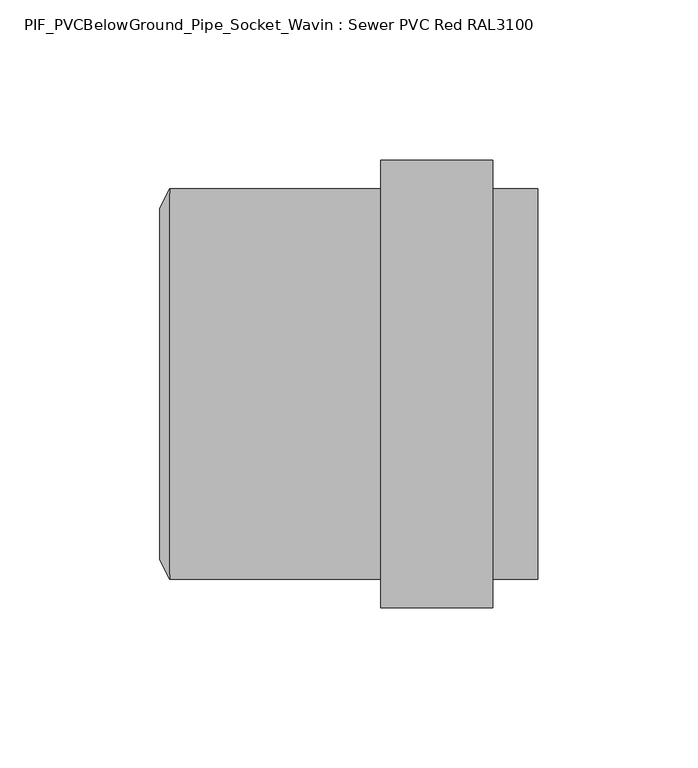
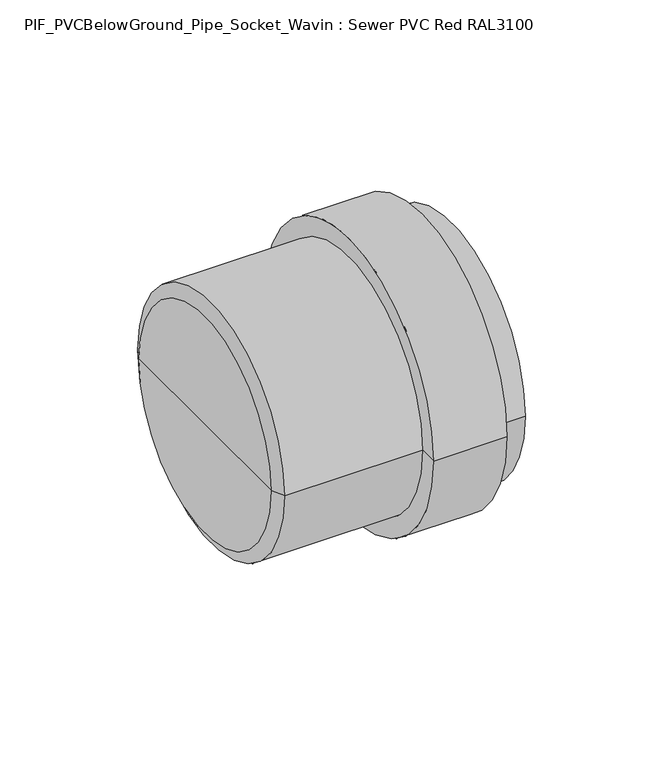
"""IFC4 building model written with IfcOpenShell, lengths in millimetres: pipe fitting geometry, PIF_PVCBelowGround_Pipe_Socket_Wavin : Sewer PVC Red RAL3100."""

from ifc_helpers import new_model, si_unit, frame, origin, place, context, project, spatial, polyline, circle_curve, source, transform, mapped, element, save
from ifc_brep_helpers import plane_surface, cylinder_surface, revolved_surface, advanced_brep


def pif_pvcbelowground_pipe_socket_wavin_sewer_pvc_red_ral3100_c325b6d2(model_context):
    return source(origin(), model_context, "Body", "AdvancedBrep", [
        advanced_brep(
        [(66.0, -70.0, 0.0), (66.0, 70.0, 0.0), (101.0, 70.0, 0.0), (101.0, -70.0, 0.0), (66.0, -60.95, 0.0), (66.0, 60.95, 0.0), (101.0, -60.95, 0.0), (101.0, 60.95, 0.0)],
        [
            (0, 1, circle_curve(frame((66.0, 0.0, 0.0), z_axis=(1.0, 0.0, 0.0), x_axis=(0.0, 1.0, 0.0)), 70.0)),
            (1, 2),
            (2, 3, circle_curve(frame((101.0, 0.0, 0.0), z_axis=(-1.0, 0.0, 0.0), x_axis=(0.0, 1.0, 0.0)), 70.0)),
            (3, 0),
            (1, 0, circle_curve(frame((66.0, 0.0, 0.0), z_axis=(1.0, 0.0, 0.0), x_axis=(0.0, 1.0, 0.0)), 70.0)),
            (3, 2, circle_curve(frame((101.0, 0.0, 0.0), z_axis=(-1.0, 0.0, 0.0), x_axis=(0.0, 1.0, 0.0)), 70.0)),
            (4, 5, circle_curve(frame((66.0, 0.0, 0.0), z_axis=(1.0, 0.0, 0.0), x_axis=(0.0, 1.0, 0.0)), 60.95)),
            (5, 1),
            (0, 4),
            (5, 4, circle_curve(frame((66.0, 0.0, 0.0), z_axis=(1.0, 0.0, 0.0), x_axis=(0.0, 1.0, 0.0)), 60.95)),
            (6, 7, circle_curve(frame((101.0, 0.0, 0.0), z_axis=(1.0, 0.0, 0.0), x_axis=(0.0, 1.0, 0.0)), 60.95)),
            (7, 5),
            (4, 6),
            (7, 6, circle_curve(frame((101.0, 0.0, 0.0), z_axis=(1.0, 0.0, 0.0), x_axis=(0.0, 1.0, 0.0)), 60.95)),
            (2, 7),
            (6, 3),
        ],
        [
            cylinder_surface(frame((2025.3, 0.0, 0.0), z_axis=(-1.0, 0.0, 0.0), x_axis=(0.0, 1.0, 0.0)), 70.0),
            plane_surface(frame((66.0, 0.0, 0.0), z_axis=(-1.0, 0.0, 0.0), x_axis=(0.0, 1.0, 0.0))),
            revolved_surface(polyline([(66.0, 60.95, 0.0), (101.0, 60.95, 0.0)]), (2025.3, 0.0, 0.0), (-1.0, 0.0, 0.0)),
            plane_surface(frame((101.0, 0.0, 0.0), z_axis=(1.0, 0.0, 0.0), x_axis=(0.0, 1.0, 0.0))),
        ],
        [
            (0, [[1, 2, 3, 4]]),
            (0, [[5, -4, 6, -2]]),
            (1, [[7, 8, -1, 9]]),
            (1, [[10, -9, -5, -8]]),
            (2, [[11, 12, -7, 13]]),
            (2, [[14, -13, -10, -12]]),
            (3, [[-3, 15, -11, 16]]),
            (3, [[-6, -16, -14, -15]]),
        ],
    ),
        advanced_brep(
        [(115.0, -60.95, 0.0), (115.0, 60.95, 0.0), (115.0, 55.0, 0.0), (115.0, -55.0, 0.0), (0.0, -60.95, 0.0), (0.0, 60.95, 0.0), (-3.0, -55.0, 0.0), (-3.0, 55.0, 0.0), (-3.0, 0.0, 0.0), (0.0, -55.0, 0.0), (0.0, 55.0, 0.0), (0.0, 0.0, 0.0)],
        [
            (0, 1, circle_curve(frame((115.0, 0.0, 0.0), z_axis=(1.0, 0.0, 0.0), x_axis=(0.0, 1.0, 0.0)), 60.95)),
            (1, 2),
            (2, 3, circle_curve(frame((115.0, 0.0, 0.0), z_axis=(-1.0, 0.0, 0.0), x_axis=(0.0, 1.0, 0.0)), 55.0)),
            (3, 0),
            (1, 0, circle_curve(frame((115.0, 0.0, 0.0), z_axis=(1.0, 0.0, 0.0), x_axis=(0.0, 1.0, 0.0)), 60.95)),
            (3, 2, circle_curve(frame((115.0, 0.0, 0.0), z_axis=(-1.0, 0.0, 0.0), x_axis=(0.0, 1.0, 0.0)), 55.0)),
            (4, 5, circle_curve(frame((0.0, 0.0, 0.0), z_axis=(1.0, 0.0, 0.0), x_axis=(0.0, 1.0, 0.0)), 60.95)),
            (5, 1),
            (0, 4),
            (5, 4, circle_curve(frame((0.0, 0.0, 0.0), z_axis=(1.0, 0.0, 0.0), x_axis=(0.0, 1.0, 0.0)), 60.95)),
            (6, 7, circle_curve(frame((-3.0, 0.0, 0.0), z_axis=(1.0, 0.0, 0.0), x_axis=(0.0, 1.0, 0.0)), 55.0)),
            (7, 5),
            (4, 6),
            (7, 6, circle_curve(frame((-3.0, 0.0, 0.0), z_axis=(1.0, 0.0, 0.0), x_axis=(0.0, 1.0, 0.0)), 55.0)),
            (8, 7),
            (6, 8),
            (9, 10, circle_curve(frame((0.0, 0.0, 0.0), z_axis=(1.0, 0.0, 0.0), x_axis=(0.0, 1.0, 0.0)), 55.0)),
            (10, 11),
            (11, 9),
            (10, 9, circle_curve(frame((0.0, 0.0, 0.0), z_axis=(1.0, 0.0, 0.0), x_axis=(0.0, 1.0, 0.0)), 55.0)),
            (2, 10),
            (9, 3),
        ],
        [
            plane_surface(frame((115.0, 0.0, 0.0), z_axis=(1.0, 0.0, 0.0), x_axis=(0.0, 1.0, 0.0))),
            cylinder_surface(frame((2025.3, 0.0, 0.0), z_axis=(-1.0, 0.0, 0.0), x_axis=(0.0, 1.0, 0.0)), 60.95),
            revolved_surface(polyline([(0.0, 60.95, 0.0), (-3.0, 55.0, 0.0)]), (2025.3, 0.0, 0.0), (-1.0, 0.0, 0.0)),
            plane_surface(frame((-3.0, 0.0, 0.0), z_axis=(-1.0, 0.0, 0.0), x_axis=(0.0, 1.0, 0.0))),
            plane_surface(frame((0.0, 0.0, 0.0), z_axis=(1.0, 0.0, 0.0), x_axis=(0.0, 1.0, 0.0))),
            revolved_surface(polyline([(0.0, 55.0, 0.0), (115.0, 55.0, 0.0)]), (2025.3, 0.0, 0.0), (-1.0, 0.0, 0.0)),
        ],
        [
            (0, [[1, 2, 3, 4]]),
            (0, [[5, -4, 6, -2]]),
            (1, [[7, 8, -1, 9]]),
            (1, [[10, -9, -5, -8]]),
            (2, [[11, 12, -7, 13]]),
            (2, [[14, -13, -10, -12]]),
            (3, [[15, -11, 16]]),
            (3, [[-16, -14, -15]]),
            (4, [[17, 18, 19]]),
            (4, [[20, -19, -18]]),
            (5, [[-3, 21, -17, 22]]),
            (5, [[-6, -22, -20, -21]]),
        ],
    ),
    ])


if __name__ == "__main__":
    model = new_model("IFC4")
    model_context = context("Model", 3, world=origin())
    ifc_project = project(units=[si_unit("LENGTHUNIT", "METRE", prefix="MILLI")], contexts=[model_context])
    site = spatial("IfcSite", under=ifc_project)
    building = spatial("IfcBuilding", under=site)
    placement = place(None, origin())
    pif_pvcbelowground_pipe_socket_wavin_sewer_pvc_red_ral3100_shape = pif_pvcbelowground_pipe_socket_wavin_sewer_pvc_red_ral3100_c325b6d2(model_context)
    element("IfcPipeFitting", 1, ObjectType="PIF_PVCBelowGround_Pipe_Socket_Wavin : Sewer PVC Red RAL3100", at=placement, inside=building, context=model_context, shape_type="MappedRepresentation", body=[
        mapped(pif_pvcbelowground_pipe_socket_wavin_sewer_pvc_red_ral3100_shape, transform((0.0, 0.0, 0.0), x_axis=(1.0, 0.0, 0.0), y_axis=(0.0, 1.0, 0.0), z_axis=(0.0, 0.0, 1.0))),
    ])
    save(model, "model.ifc")
